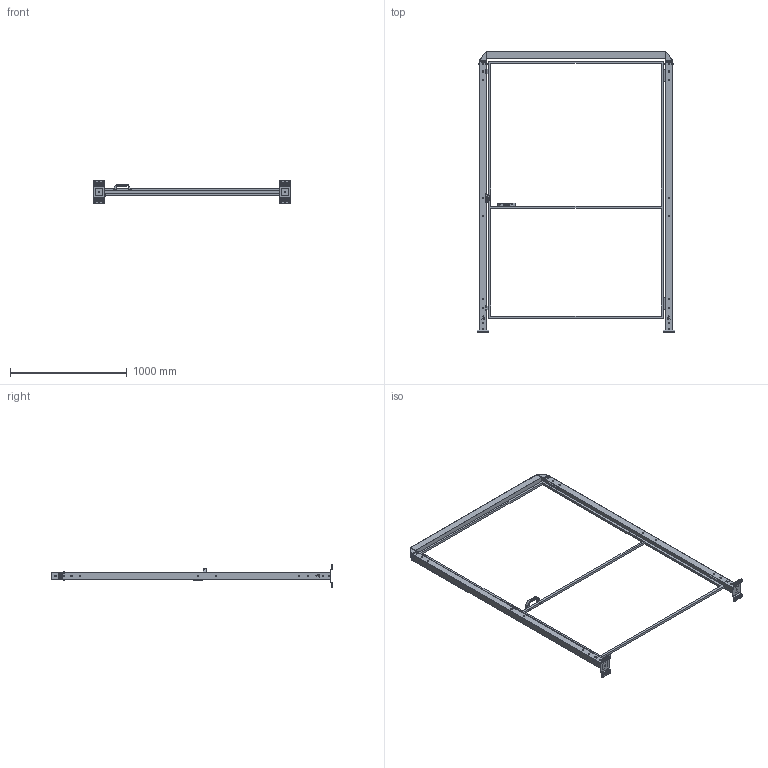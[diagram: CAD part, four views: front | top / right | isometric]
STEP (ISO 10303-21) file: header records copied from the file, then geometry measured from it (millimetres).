
FILE_DESCRIPTION(('STEP AP242'),'1');
FILE_NAME('vfda_bscndr2_15002320.stp','2025-01-23T13:47:18',('TraceParts'),('TraceParts S.A.'),'Spatial InterOp 3D',' ',' ');
FILE_SCHEMA(('AP242_MANAGED_MODEL_BASED_3D_ENGINEERING_MIM_LF {1 0 10303 442 1 1 4}'));
Length unit declared in the file: millimetre
Products named in the file (1): vfda_bscndr2_15002320_1
Bounding box: 1690 x 2401 x 192 mm (x, y, z)
Volume: 6105032.7 mm3; surface area: 3823236.2 mm2
Topology: 12 solids, 12 shells, 1874 faces, 5016 edges, 3212 vertices
Faces by surface type: plane 906, cylinder 628, bspline 236, cone 60, torus 40, sphere 4
Entity records: 75648 total; most frequent: CARTESIAN_POINT 13827, ORIENTED_EDGE 10024, DIRECTION 9202, EDGE_CURVE 5012, VERTEX_POINT 3212, LINE 3072, VECTOR 3072, AXIS2_PLACEMENT_3D 3065
